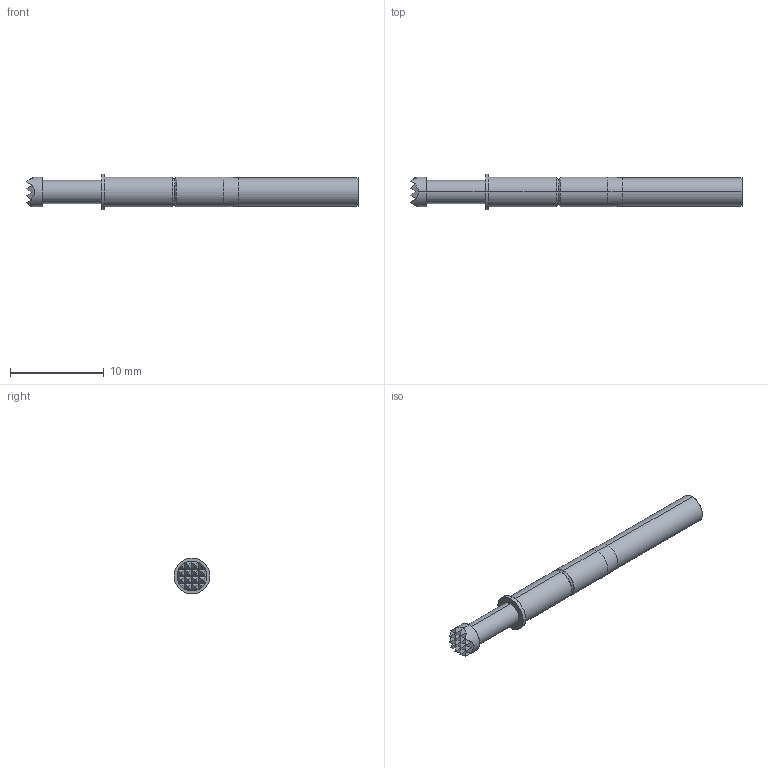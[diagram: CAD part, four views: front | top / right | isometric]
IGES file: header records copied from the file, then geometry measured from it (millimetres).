
Start section: SolidWorks IGES file using analytic representation for surfaces
Global section: file name: O:\PYLON\IGES FILES\P2550\P2550-9.IGS; native system: SolidWorks 2015; preprocessor: SolidWorks 2015; author: kgolden; date: 171020.114942; units: inch
Bounding box: 35.38 x 3.81 x 3.81 mm (x, y, z)
Surface area: 430 mm2 (no closed solid volume)
Topology: 0 solids, 0 shells, 74 faces, 623 edges, 621 vertices
Faces by surface type: bspline 58, revolution 16
